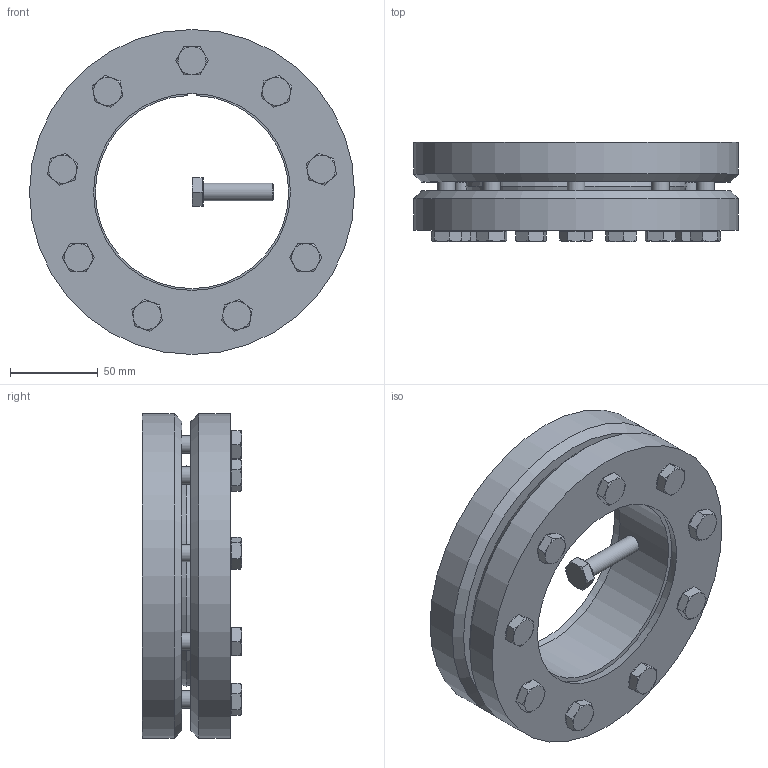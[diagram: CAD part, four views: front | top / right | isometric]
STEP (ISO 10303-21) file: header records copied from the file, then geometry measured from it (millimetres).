
FILE_DESCRIPTION( ( 'Unknown' ), '1' );
FILE_NAME( 'C:/Dokumente und Einstellungen/Sven/Desktop/homepage/cad - homepage/KBS19/KBS 19 - 110 x 185.stp', 'Unknown', ( 'Unknown' ), ( 'Unknown' ), 'XStep 1.0', 'Unknown', ' ' );
FILE_SCHEMA( ( 'automotive_design' ) );
Length unit declared in the file: millimetre
Products named in the file (3): Assem1; KBS 19 - 110 x 185; ISO 4017 - M10 x 40-N
Bounding box: 185 x 56.4 x 185 mm (x, y, z)
Volume: 1534232.2 mm3; surface area: 256637.2 mm2
Topology: 12 solids, 12 shells, 332 faces, 776 edges, 478 vertices
Faces by surface type: plane 178, cone 82, cylinder 62, torus 10
Full cylindrical faces by diameter (mm): 10 x46, 16 x10, 185 x4
Entity records: 2322 total; most frequent: CARTESIAN_POINT 376, DIRECTION 340, ORIENTED_EDGE 260, AXIS2_PLACEMENT_3D 149, EDGE_LOOP 135, EDGE_CURVE 130, VERTEX_POINT 97, FACE_OUTER_BOUND 89
